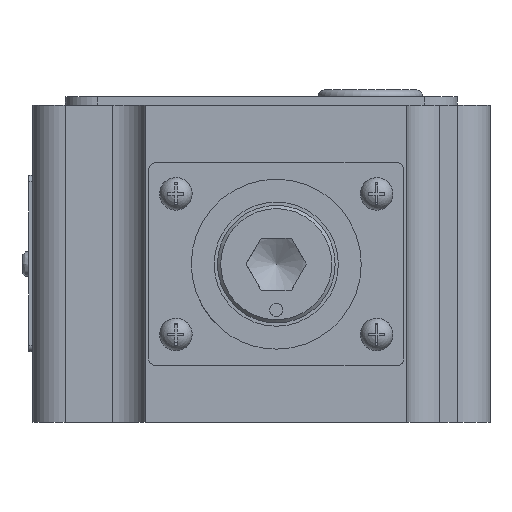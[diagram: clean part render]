
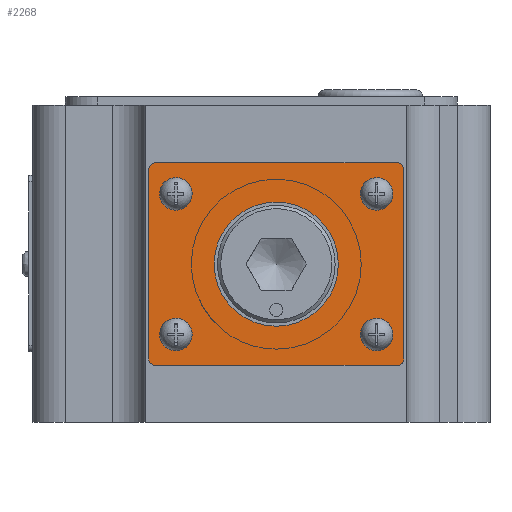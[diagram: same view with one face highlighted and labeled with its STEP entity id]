
A CAD part, left-side view. The second image highlights one B-rep face of the part: STEP entity #2268.
In plain terms, the highlighted planar face has unit normal (-1, 0, 0).
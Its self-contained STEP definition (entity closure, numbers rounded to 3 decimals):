
#983=LINE('',#27028,#1339);
#987=LINE('',#27040,#1343);
#991=LINE('',#27052,#1347);
#995=LINE('',#27064,#1351);
#1339=VECTOR('',#9171,1.);
#1343=VECTOR('',#9183,1.);
#1347=VECTOR('',#9195,1.);
#1351=VECTOR('',#9207,1.);
#1651=PLANE('',#7800);
#2268=ADVANCED_FACE('',(#2674,#2675,#2676,#2677,#2678,#2679),#1651,.F.);
#2674=FACE_BOUND('',#3255,.T.);
#2675=FACE_BOUND('',#3256,.T.);
#2676=FACE_BOUND('',#3257,.T.);
#2677=FACE_BOUND('',#3258,.T.);
#2678=FACE_BOUND('',#3259,.T.);
#2679=FACE_BOUND('',#3260,.T.);
#3255=EDGE_LOOP('',(#4532,#4533,#4534,#4535,#4536,#4537,#4538,#4539));
#3256=EDGE_LOOP('',(#4540));
#3257=EDGE_LOOP('',(#4541));
#3258=EDGE_LOOP('',(#4542));
#3259=EDGE_LOOP('',(#4543));
#3260=EDGE_LOOP('',(#4544));
#4532=ORIENTED_EDGE('',*,*,#6529,.F.);
#4533=ORIENTED_EDGE('',*,*,#6558,.F.);
#4534=ORIENTED_EDGE('',*,*,#6547,.F.);
#4535=ORIENTED_EDGE('',*,*,#6544,.F.);
#4536=ORIENTED_EDGE('',*,*,#6541,.F.);
#4537=ORIENTED_EDGE('',*,*,#6538,.F.);
#4538=ORIENTED_EDGE('',*,*,#6535,.F.);
#4539=ORIENTED_EDGE('',*,*,#6532,.F.);
#4540=ORIENTED_EDGE('',*,*,#6555,.T.);
#4541=ORIENTED_EDGE('',*,*,#6553,.T.);
#4542=ORIENTED_EDGE('',*,*,#6551,.T.);
#4543=ORIENTED_EDGE('',*,*,#6549,.T.);
#4544=ORIENTED_EDGE('',*,*,#6559,.T.);
#5738=VERTEX_POINT('',#27027);
#5739=VERTEX_POINT('',#27029);
#5741=VERTEX_POINT('',#27035);
#5743=VERTEX_POINT('',#27041);
#5745=VERTEX_POINT('',#27047);
#5747=VERTEX_POINT('',#27053);
#5749=VERTEX_POINT('',#27059);
#5751=VERTEX_POINT('',#27065);
#5752=VERTEX_POINT('',#27069);
#5754=VERTEX_POINT('',#27074);
#5756=VERTEX_POINT('',#27079);
#5758=VERTEX_POINT('',#27084);
#5760=VERTEX_POINT('',#27092);
#6529=EDGE_CURVE('',#5738,#5739,#983,.T.);
#6532=EDGE_CURVE('',#5739,#5741,#7168,.T.);
#6535=EDGE_CURVE('',#5741,#5743,#987,.T.);
#6538=EDGE_CURVE('',#5743,#5745,#7170,.T.);
#6541=EDGE_CURVE('',#5745,#5747,#991,.T.);
#6544=EDGE_CURVE('',#5747,#5749,#7172,.T.);
#6547=EDGE_CURVE('',#5749,#5751,#995,.T.);
#6549=EDGE_CURVE('',#5752,#5752,#7173,.T.);
#6551=EDGE_CURVE('',#5754,#5754,#7175,.T.);
#6553=EDGE_CURVE('',#5756,#5756,#7177,.T.);
#6555=EDGE_CURVE('',#5758,#5758,#7179,.T.);
#6558=EDGE_CURVE('',#5751,#5738,#7182,.T.);
#6559=EDGE_CURVE('',#5760,#5760,#7183,.T.);
#7168=CIRCLE('',#7771,1.);
#7170=CIRCLE('',#7775,1.);
#7172=CIRCLE('',#7779,1.);
#7173=CIRCLE('',#7782,2.);
#7175=CIRCLE('',#7785,9.5);
#7177=CIRCLE('',#7788,2.);
#7179=CIRCLE('',#7791,2.);
#7182=CIRCLE('',#7795,1.);
#7183=CIRCLE('',#7797,2.);
#7771=AXIS2_PLACEMENT_3D('',#27034,#9177,#9178);
#7775=AXIS2_PLACEMENT_3D('',#27046,#9189,#9190);
#7779=AXIS2_PLACEMENT_3D('',#27058,#9201,#9202);
#7782=AXIS2_PLACEMENT_3D('',#27068,#9211,#9212);
#7785=AXIS2_PLACEMENT_3D('',#27073,#9217,#9218);
#7788=AXIS2_PLACEMENT_3D('',#27078,#9223,#9224);
#7791=AXIS2_PLACEMENT_3D('',#27083,#9229,#9230);
#7795=AXIS2_PLACEMENT_3D('',#27089,#9237,#9238);
#7797=AXIS2_PLACEMENT_3D('',#27091,#9241,#9242);
#7800=AXIS2_PLACEMENT_3D('',#27096,#9247,#9248);
#9171=DIRECTION('',(0.,0.,-1.));
#9177=DIRECTION('',(1.,0.,0.));
#9178=DIRECTION('',(0.,1.,0.));
#9183=DIRECTION('',(0.,1.,0.));
#9189=DIRECTION('',(1.,0.,0.));
#9190=DIRECTION('',(0.,1.,0.));
#9195=DIRECTION('',(0.,0.,1.));
#9201=DIRECTION('',(1.,0.,0.));
#9202=DIRECTION('',(0.,1.,0.));
#9207=DIRECTION('',(0.,-1.,0.));
#9211=DIRECTION('',(1.,0.,0.));
#9212=DIRECTION('',(0.,1.,0.));
#9217=DIRECTION('',(1.,0.,0.));
#9218=DIRECTION('',(0.,1.,0.));
#9223=DIRECTION('',(1.,0.,0.));
#9224=DIRECTION('',(0.,1.,0.));
#9229=DIRECTION('',(1.,0.,0.));
#9230=DIRECTION('',(0.,1.,0.));
#9237=DIRECTION('',(1.,0.,0.));
#9238=DIRECTION('',(0.,1.,0.));
#9241=DIRECTION('',(1.,0.,0.));
#9242=DIRECTION('',(0.,1.,0.));
#9247=DIRECTION('',(1.,0.,0.));
#9248=DIRECTION('',(0.,-1.,0.));
#27027=CARTESIAN_POINT('',(-145.376,43.755,30.75));
#27028=CARTESIAN_POINT('',(-145.376,43.755,30.75));
#27029=CARTESIAN_POINT('',(-145.376,43.755,1.75));
#27034=CARTESIAN_POINT('',(-145.376,44.755,1.75));
#27035=CARTESIAN_POINT('',(-145.376,44.755,0.75));
#27040=CARTESIAN_POINT('',(-145.376,44.755,0.75));
#27041=CARTESIAN_POINT('',(-145.376,81.755,0.75));
#27046=CARTESIAN_POINT('',(-145.376,81.755,1.75));
#27047=CARTESIAN_POINT('',(-145.376,82.755,1.75));
#27052=CARTESIAN_POINT('',(-145.376,82.755,1.75));
#27053=CARTESIAN_POINT('',(-145.376,82.755,30.75));
#27058=CARTESIAN_POINT('',(-145.376,81.755,30.75));
#27059=CARTESIAN_POINT('',(-145.376,81.755,31.75));
#27064=CARTESIAN_POINT('',(-145.376,81.755,31.75));
#27065=CARTESIAN_POINT('',(-145.376,44.755,31.75));
#27068=CARTESIAN_POINT('',(-145.376,78.614,5.495));
#27069=CARTESIAN_POINT('',(-145.376,80.614,5.495));
#27073=CARTESIAN_POINT('',(-145.376,63.255,16.25));
#27074=CARTESIAN_POINT('',(-145.376,72.755,16.25));
#27078=CARTESIAN_POINT('',(-145.376,47.896,27.005));
#27079=CARTESIAN_POINT('',(-145.376,49.896,27.005));
#27083=CARTESIAN_POINT('',(-145.376,47.896,5.495));
#27084=CARTESIAN_POINT('',(-145.376,49.896,5.495));
#27089=CARTESIAN_POINT('',(-145.376,44.755,30.75));
#27091=CARTESIAN_POINT('',(-145.376,78.614,27.005));
#27092=CARTESIAN_POINT('',(-145.376,80.614,27.005));
#27096=CARTESIAN_POINT('',(-145.376,44.755,1.75));
